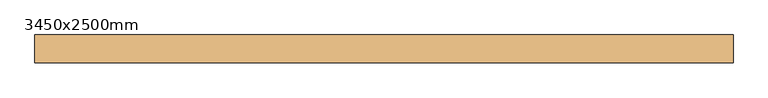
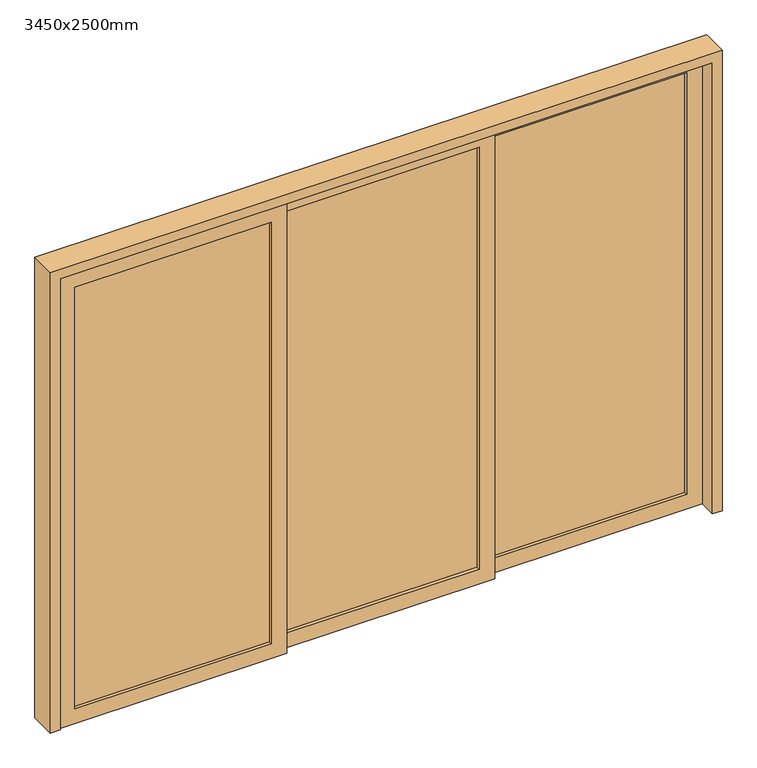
"""IFC4 building model written with IfcOpenShell, lengths in millimetres: door geometry, 三扇推拉门 : 3450x2500mm."""

from ifc_helpers import new_model, si_unit, frame, origin, place, context, project, spatial, polyline, outline, extrude, source, transform, mapped, element, save


def door_3450x2500mm_e06ce5b7(model_context):
    return source(origin(), model_context, "Body", "SweptSolid", [
        extrude(outline(polyline([(2500.0, -1600.0), (0.0, -1600.0), (0.0, -1550.0), (2450.0, -1550.0), (2450.0, 1800.0), (0.0, 1800.0), (0.0, 1850.0), (2500.0, 1850.0), (2500.0, -1600.0)])), frame((0.0, -69.0, 0.0), z_axis=(0.0, 1.0, 0.0), x_axis=(0.0, 0.0, 1.0)), (0.0, 0.0, 1.0), 138.0),
        extrude(outline(polyline([(2450.0, -1550.0), (0.0, -1550.0), (0.0, -380.0), (2450.0, -380.0), (2450.0, -1550.0)]), holes=[polyline([(2370.0, -1470.0), (2370.0, -460.0), (80.0, -460.0), (80.0, -1470.0), (2370.0, -1470.0)])]), frame((0.0, -60.0, 0.0), z_axis=(0.0, 1.0, 0.0), x_axis=(0.0, 0.0, 1.0)), (0.0, 0.0, 1.0), 40.0),
        extrude(outline(polyline([(2450.0, -460.0), (0.0, -460.0), (0.0, 710.0), (2450.0, 710.0), (2450.0, -460.0)]), holes=[polyline([(2370.0, -380.0), (2370.0, 630.0), (80.0, 630.0), (80.0, -380.0), (2370.0, -380.0)])]), frame((0.0, -20.0, 0.0), z_axis=(0.0, 1.0, 0.0), x_axis=(0.0, 0.0, 1.0)), (0.0, 0.0, 1.0), 40.0),
        extrude(outline(polyline([(2450.0, 630.0), (0.0, 630.0), (0.0, 1800.0), (2450.0, 1800.0), (2450.0, 630.0)]), holes=[polyline([(2370.0, 710.0), (2370.0, 1720.0), (80.0, 1720.0), (80.0, 710.0), (2370.0, 710.0)])]), frame((0.0, 20.0, 0.0), z_axis=(0.0, 1.0, 0.0), x_axis=(0.0, 0.0, 1.0)), (0.0, 0.0, 1.0), 40.0),
        extrude(outline(polyline([(630.0, 2.5), (630.0, -2.5), (-380.0, -2.5), (-380.0, 2.5), (630.0, 2.5)])), frame((0.0, 0.0, 80.0), z_axis=(0.0, 0.0, 1.0), x_axis=(1.0, 0.0, 0.0)), (0.0, 0.0, 1.0), 2290.0),
        extrude(outline(polyline([(1720.0, 42.5), (1720.0, 37.5), (710.0, 37.5), (710.0, 42.5), (1720.0, 42.5)])), frame((0.0, 0.0, 80.0), z_axis=(0.0, 0.0, 1.0), x_axis=(1.0, 0.0, 0.0)), (0.0, 0.0, 1.0), 2290.0),
        extrude(outline(polyline([(-460.0, -37.5), (-460.0, -42.5), (-1470.0, -42.5), (-1470.0, -37.5), (-460.0, -37.5)])), frame((0.0, 0.0, 80.0), z_axis=(0.0, 0.0, 1.0), x_axis=(1.0, 0.0, 0.0)), (0.0, 0.0, 1.0), 2290.0),
    ])


if __name__ == "__main__":
    model = new_model("IFC4")
    model_context = context("Model", 3, world=origin())
    ifc_project = project(units=[si_unit("LENGTHUNIT", "METRE", prefix="MILLI")], contexts=[model_context])
    site = spatial("IfcSite", under=ifc_project)
    building = spatial("IfcBuilding", under=site)
    placement = place(None, origin())
    door_3450x2500mm_shape = door_3450x2500mm_e06ce5b7(model_context)
    element("IfcDoor", 1, ObjectType="三扇推拉门 : 3450x2500mm", at=placement, inside=building, context=model_context, shape_type="MappedRepresentation", body=[
        mapped(door_3450x2500mm_shape, transform((0.0, 0.0, 0.0), x_axis=(1.0, 0.0, 0.0), y_axis=(0.0, 1.0, 0.0), z_axis=(0.0, 0.0, 1.0))),
    ])
    save(model, "model.ifc")
